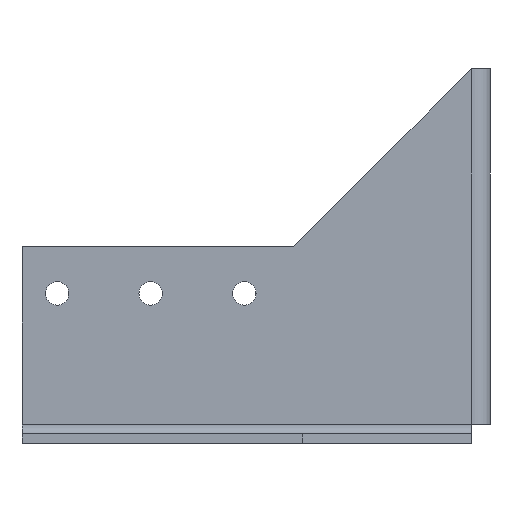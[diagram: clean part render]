
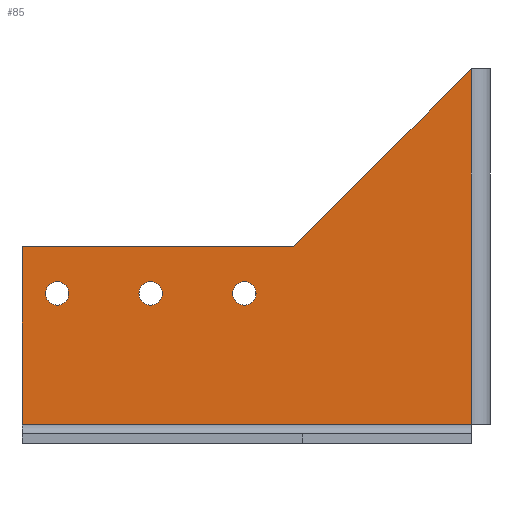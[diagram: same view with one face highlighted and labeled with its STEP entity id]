
A CAD part, left-side view. The second image highlights one B-rep face of the part: STEP entity #85.
In plain terms, the highlighted planar face has unit normal (-1, 0, 0).
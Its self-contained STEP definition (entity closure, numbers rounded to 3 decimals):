
#24 = VERTEX_POINT ( 'NONE', #2296 ) ;
#42 = DIRECTION ( 'NONE',  ( 0., -1., 0. ) ) ;
#84 = VERTEX_POINT ( 'NONE', #363 ) ;
#85 = ADVANCED_FACE ( 'NONE', ( #846, #1866, #1089, #1180 ), #2167, .T. ) ;
#140 = CARTESIAN_POINT ( 'NONE',  ( -2., 50.5, -48. ) ) ;
#166 = VECTOR ( 'NONE', #2785, 1000. ) ;
#172 = DIRECTION ( 'NONE',  ( 1., 0., 0. ) ) ;
#175 = DIRECTION ( 'NONE',  ( 0., -1., 0. ) ) ;
#180 = CARTESIAN_POINT ( 'NONE',  ( -2., 0., 0. ) ) ;
#210 = AXIS2_PLACEMENT_3D ( 'NONE', #663, #172, #2264 ) ;
#220 = ORIENTED_EDGE ( 'NONE', *, *, #1397, .F. ) ;
#247 = DIRECTION ( 'NONE',  ( 1., 0., 0. ) ) ;
#263 = EDGE_CURVE ( 'NONE', #84, #2635, #2444, .T. ) ;
#358 = EDGE_CURVE ( 'NONE', #1489, #3385, #2932, .T. ) ;
#363 = CARTESIAN_POINT ( 'NONE',  ( -2., 2., -76. ) ) ;
#525 = ORIENTED_EDGE ( 'NONE', *, *, #1773, .T. ) ;
#579 = VERTEX_POINT ( 'NONE', #2608 ) ;
#663 = CARTESIAN_POINT ( 'NONE',  ( -2., 50.5, -48. ) ) ;
#676 = DIRECTION ( 'NONE',  ( 0., 1., 0. ) ) ;
#744 = ORIENTED_EDGE ( 'NONE', *, *, #1377, .T. ) ;
#760 = ORIENTED_EDGE ( 'NONE', *, *, #2502, .T. ) ;
#782 = DIRECTION ( 'NONE',  ( 0., -0.707, 0.707 ) ) ;
#818 = CARTESIAN_POINT ( 'NONE',  ( -2., 2., 0. ) ) ;
#823 = DIRECTION ( 'NONE',  ( 0., -1., 0. ) ) ;
#846 = FACE_BOUND ( 'NONE', #2968, .T. ) ;
#878 = CARTESIAN_POINT ( 'NONE',  ( -2., 73., -48. ) ) ;
#916 = DIRECTION ( 'NONE',  ( 1., 0., 0. ) ) ;
#926 = DIRECTION ( 'NONE',  ( 0., -1., 0. ) ) ;
#998 = ORIENTED_EDGE ( 'NONE', *, *, #358, .F. ) ;
#1005 = AXIS2_PLACEMENT_3D ( 'NONE', #180, #1141, #42 ) ;
#1021 = CIRCLE ( 'NONE', #2259, 2.5 ) ;
#1046 = VECTOR ( 'NONE', #676, 1000. ) ;
#1079 = CARTESIAN_POINT ( 'NONE',  ( -2., 70.5, -48. ) ) ;
#1089 = FACE_BOUND ( 'NONE', #1450, .T. ) ;
#1099 = LINE ( 'NONE', #3063, #166 ) ;
#1128 = AXIS2_PLACEMENT_3D ( 'NONE', #1578, #247, #1305 ) ;
#1141 = DIRECTION ( 'NONE',  ( -1., 0., 0. ) ) ;
#1180 = FACE_OUTER_BOUND ( 'NONE', #1740, .T. ) ;
#1216 = ORIENTED_EDGE ( 'NONE', *, *, #1523, .T. ) ;
#1305 = DIRECTION ( 'NONE',  ( 0., -1., 0. ) ) ;
#1377 = EDGE_CURVE ( 'NONE', #24, #2752, #3446, .T. ) ;
#1397 = EDGE_CURVE ( 'NONE', #3385, #2540, #2991, .T. ) ;
#1436 = CARTESIAN_POINT ( 'NONE',  ( -2., 2., 0. ) ) ;
#1450 = EDGE_LOOP ( 'NONE', ( #1216, #744 ) ) ;
#1489 = VERTEX_POINT ( 'NONE', #1879 ) ;
#1523 = EDGE_CURVE ( 'NONE', #2752, #24, #3328, .T. ) ;
#1578 = CARTESIAN_POINT ( 'NONE',  ( -2., 90.5, -48. ) ) ;
#1644 = VERTEX_POINT ( 'NONE', #1687 ) ;
#1687 = CARTESIAN_POINT ( 'NONE',  ( -2., 53., -48. ) ) ;
#1740 = EDGE_LOOP ( 'NONE', ( #2810, #220, #998, #1969, #3114 ) ) ;
#1748 = DIRECTION ( 'NONE',  ( 1., 0., 0. ) ) ;
#1773 = EDGE_CURVE ( 'NONE', #1644, #579, #2819, .T. ) ;
#1801 = CIRCLE ( 'NONE', #2916, 2.5 ) ;
#1804 = CARTESIAN_POINT ( 'NONE',  ( -2., 98., -76. ) ) ;
#1819 = EDGE_CURVE ( 'NONE', #2635, #1489, #1099, .T. ) ;
#1866 = FACE_BOUND ( 'NONE', #1890, .T. ) ;
#1879 = CARTESIAN_POINT ( 'NONE',  ( -2., 98., -38. ) ) ;
#1890 = EDGE_LOOP ( 'NONE', ( #760, #2179 ) ) ;
#1898 = DIRECTION ( 'NONE',  ( 0., -1., 0. ) ) ;
#1945 = DIRECTION ( 'NONE',  ( 0., -1., 0. ) ) ;
#1969 = ORIENTED_EDGE ( 'NONE', *, *, #1819, .F. ) ;
#2080 = VECTOR ( 'NONE', #2235, 1000. ) ;
#2167 = PLANE ( 'NONE',  #1005 ) ;
#2179 = ORIENTED_EDGE ( 'NONE', *, *, #2781, .T. ) ;
#2235 = DIRECTION ( 'NONE',  ( 0., 0., 1. ) ) ;
#2251 = CARTESIAN_POINT ( 'NONE',  ( -2., 98., -76. ) ) ;
#2259 = AXIS2_PLACEMENT_3D ( 'NONE', #3358, #1748, #175 ) ;
#2264 = DIRECTION ( 'NONE',  ( 0., -1., 0. ) ) ;
#2270 = VECTOR ( 'NONE', #782, 1000. ) ;
#2296 = CARTESIAN_POINT ( 'NONE',  ( -2., 88., -48. ) ) ;
#2361 = CARTESIAN_POINT ( 'NONE',  ( -2., 1., 1. ) ) ;
#2362 = VERTEX_POINT ( 'NONE', #878 ) ;
#2403 = CIRCLE ( 'NONE', #2855, 2.5 ) ;
#2409 = CARTESIAN_POINT ( 'NONE',  ( -2., 90.5, -48. ) ) ;
#2444 = LINE ( 'NONE', #2251, #1046 ) ;
#2450 = VECTOR ( 'NONE', #823, 1000. ) ;
#2464 = CARTESIAN_POINT ( 'NONE',  ( -2., 40., -38. ) ) ;
#2501 = AXIS2_PLACEMENT_3D ( 'NONE', #2409, #2694, #1898 ) ;
#2502 = EDGE_CURVE ( 'NONE', #2362, #2661, #1021, .T. ) ;
#2532 = ORIENTED_EDGE ( 'NONE', *, *, #2904, .T. ) ;
#2540 = VERTEX_POINT ( 'NONE', #818 ) ;
#2608 = CARTESIAN_POINT ( 'NONE',  ( -2., 48., -48. ) ) ;
#2635 = VERTEX_POINT ( 'NONE', #1804 ) ;
#2661 = VERTEX_POINT ( 'NONE', #2848 ) ;
#2689 = CARTESIAN_POINT ( 'NONE',  ( -2., 0., -38. ) ) ;
#2694 = DIRECTION ( 'NONE',  ( 1., 0., 0. ) ) ;
#2722 = CARTESIAN_POINT ( 'NONE',  ( -2., 93., -48. ) ) ;
#2752 = VERTEX_POINT ( 'NONE', #2722 ) ;
#2781 = EDGE_CURVE ( 'NONE', #2661, #2362, #1801, .T. ) ;
#2785 = DIRECTION ( 'NONE',  ( 0., 0., 1. ) ) ;
#2810 = ORIENTED_EDGE ( 'NONE', *, *, #2925, .T. ) ;
#2819 = CIRCLE ( 'NONE', #210, 2.5 ) ;
#2848 = CARTESIAN_POINT ( 'NONE',  ( -2., 68., -48. ) ) ;
#2855 = AXIS2_PLACEMENT_3D ( 'NONE', #140, #3295, #1945 ) ;
#2890 = LINE ( 'NONE', #1436, #2080 ) ;
#2904 = EDGE_CURVE ( 'NONE', #579, #1644, #2403, .T. ) ;
#2916 = AXIS2_PLACEMENT_3D ( 'NONE', #1079, #916, #926 ) ;
#2925 = EDGE_CURVE ( 'NONE', #84, #2540, #2890, .T. ) ;
#2932 = LINE ( 'NONE', #2689, #2450 ) ;
#2968 = EDGE_LOOP ( 'NONE', ( #525, #2532 ) ) ;
#2991 = LINE ( 'NONE', #2361, #2270 ) ;
#3063 = CARTESIAN_POINT ( 'NONE',  ( -2., 98., 0. ) ) ;
#3114 = ORIENTED_EDGE ( 'NONE', *, *, #263, .F. ) ;
#3295 = DIRECTION ( 'NONE',  ( 1., 0., 0. ) ) ;
#3328 = CIRCLE ( 'NONE', #2501, 2.5 ) ;
#3358 = CARTESIAN_POINT ( 'NONE',  ( -2., 70.5, -48. ) ) ;
#3385 = VERTEX_POINT ( 'NONE', #2464 ) ;
#3446 = CIRCLE ( 'NONE', #1128, 2.5 ) ;
